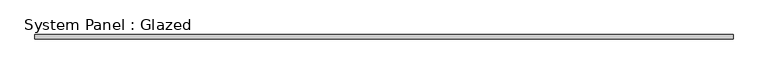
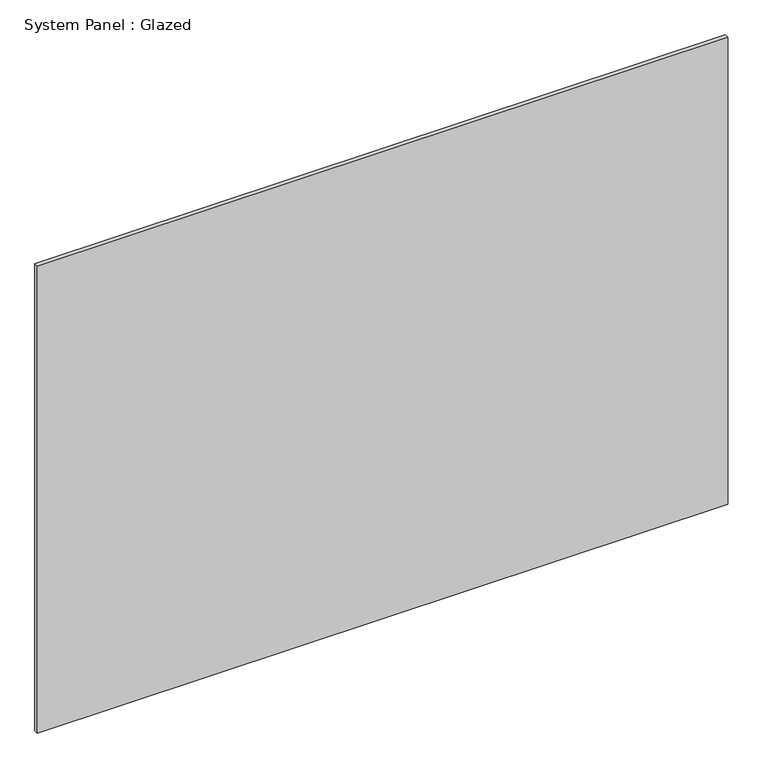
"""IFC4 building model written with IfcOpenShell, lengths in millimetres: plate geometry, System Panel : Glazed."""

from ifc_helpers import new_model, si_unit, origin, origin_with_axes, place, context, project, spatial, polyline, outline, extrude, source, transform, mapped, element, save


def system_panel_glazed_1585a9ad(model_context):
    return source(origin(), model_context, "Body", "SweptSolid", [
        extrude(outline(polyline([(1925.0, -49.5), (-1925.0, -49.5), (-1925.0, -24.5), (1925.0, -24.5), (1925.0, -49.5)])), origin_with_axes(), (0.0, 0.0, 1.0), 2750.0),
    ])


if __name__ == "__main__":
    model = new_model("IFC4")
    model_context = context("Model", 3, world=origin())
    ifc_project = project(units=[si_unit("LENGTHUNIT", "METRE", prefix="MILLI")], contexts=[model_context])
    site = spatial("IfcSite", under=ifc_project)
    building = spatial("IfcBuilding", under=site)
    placement = place(None, origin())
    system_panel_glazed_shape = system_panel_glazed_1585a9ad(model_context)
    element("IfcPlate", 1, ObjectType="System Panel : Glazed", at=placement, inside=building, context=model_context, shape_type="MappedRepresentation", body=[
        mapped(system_panel_glazed_shape, transform((0.0, 0.0, 0.0), x_axis=(1.0, 0.0, 0.0), y_axis=(0.0, 1.0, 0.0), z_axis=(0.0, 0.0, 1.0))),
    ])
    save(model, "model.ifc")
